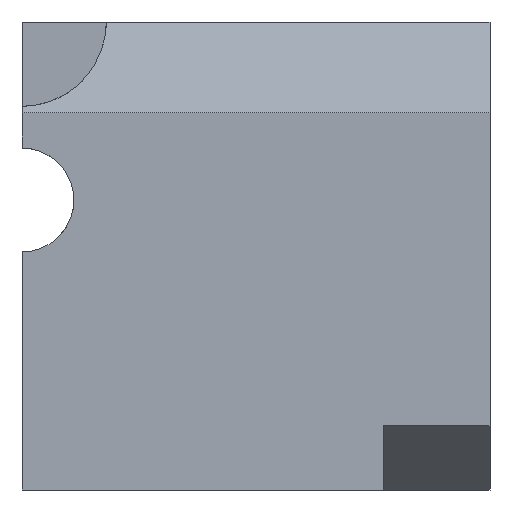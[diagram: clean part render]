
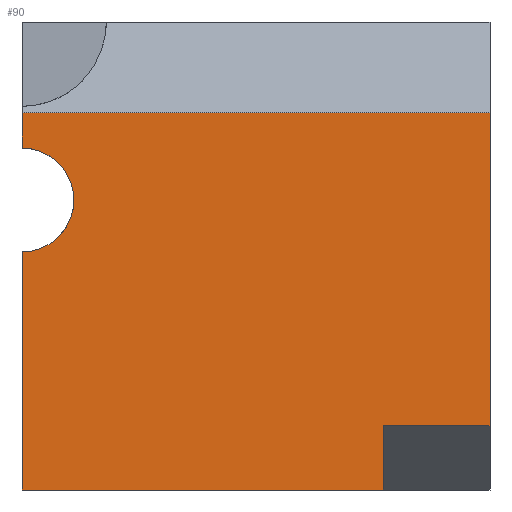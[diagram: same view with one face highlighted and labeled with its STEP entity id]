
A CAD part, front view. The second image highlights one B-rep face of the part: STEP entity #90.
In plain terms, the highlighted planar face has unit normal (0, -1, 0).
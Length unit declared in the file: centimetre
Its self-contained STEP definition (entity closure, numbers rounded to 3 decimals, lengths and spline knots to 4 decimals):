
#3 = VERTEX_POINT ( 'NONE', #311 ) ;
#11 = CIRCLE ( 'NONE', #288, 110.9121 ) ;
#25 = VERTEX_POINT ( 'NONE', #173 ) ;
#29 = CARTESIAN_POINT ( 'NONE',  ( 0., 0., 806.0865 ) ) ;
#30 = LINE ( 'NONE', #402, #954 ) ;
#39 = CARTESIAN_POINT ( 'NONE',  ( 0., 0., 1000. ) ) ;
#47 = VERTEX_POINT ( 'NONE', #29 ) ;
#63 = CARTESIAN_POINT ( 'NONE',  ( 772.1229, 0., 0. ) ) ;
#78 = CARTESIAN_POINT ( 'NONE',  ( 0., 0., 1000. ) ) ;
#90 = ADVANCED_FACE ( 'NONE', ( #357 ), #188, .F. ) ;
#94 = DIRECTION ( 'NONE',  ( 0., 0., -1. ) ) ;
#102 = LINE ( 'NONE', #308, #574 ) ;
#110 = DIRECTION ( 'NONE',  ( 1., 0., 0. ) ) ;
#121 = CARTESIAN_POINT ( 'NONE',  ( 0., 0., 806.0865 ) ) ;
#125 = VERTEX_POINT ( 'NONE', #63 ) ;
#138 = VERTEX_POINT ( 'NONE', #809 ) ;
#151 = LINE ( 'NONE', #447, #735 ) ;
#153 = EDGE_CURVE ( 'NONE', #138, #47, #269, .T. ) ;
#162 = EDGE_CURVE ( 'NONE', #272, #3, #11, .T. ) ;
#173 = CARTESIAN_POINT ( 'NONE',  ( 0., 0., 0. ) ) ;
#180 = ORIENTED_EDGE ( 'NONE', *, *, #604, .T. ) ;
#188 = PLANE ( 'NONE',  #365 ) ;
#195 = DIRECTION ( 'NONE',  ( 0., 0., 1. ) ) ;
#244 = CARTESIAN_POINT ( 'NONE',  ( 772.1229, 0., 137.5406 ) ) ;
#269 = LINE ( 'NONE', #121, #441 ) ;
#272 = VERTEX_POINT ( 'NONE', #351 ) ;
#279 = DIRECTION ( 'NONE',  ( 0., 1., 0. ) ) ;
#281 = CARTESIAN_POINT ( 'NONE',  ( 1000., 0., 137.5406 ) ) ;
#288 = AXIS2_PLACEMENT_3D ( 'NONE', #887, #664, #799 ) ;
#298 = CARTESIAN_POINT ( 'NONE',  ( 0., 0., 1000. ) ) ;
#299 = EDGE_LOOP ( 'NONE', ( #730, #801, #180, #695, #440, #349, #555, #364 ) ) ;
#306 = DIRECTION ( 'NONE',  ( 1., 0., 0. ) ) ;
#308 = CARTESIAN_POINT ( 'NONE',  ( 1000., 0., 1000. ) ) ;
#311 = CARTESIAN_POINT ( 'NONE',  ( 0., 0., 730.5217 ) ) ;
#328 = VECTOR ( 'NONE', #531, 100. ) ;
#349 = ORIENTED_EDGE ( 'NONE', *, *, #772, .T. ) ;
#351 = CARTESIAN_POINT ( 'NONE',  ( 0., 0., 508.6975 ) ) ;
#357 = FACE_OUTER_BOUND ( 'NONE', #299, .T. ) ;
#360 = EDGE_CURVE ( 'NONE', #47, #3, #754, .T. ) ;
#364 = ORIENTED_EDGE ( 'NONE', *, *, #153, .T. ) ;
#365 = AXIS2_PLACEMENT_3D ( 'NONE', #39, #279, #195 ) ;
#402 = CARTESIAN_POINT ( 'NONE',  ( 772.1229, 0., 137.5406 ) ) ;
#413 = DIRECTION ( 'NONE',  ( -1., 0., 0. ) ) ;
#440 = ORIENTED_EDGE ( 'NONE', *, *, #606, .F. ) ;
#441 = VECTOR ( 'NONE', #413, 100. ) ;
#447 = CARTESIAN_POINT ( 'NONE',  ( 0., 0., 0. ) ) ;
#470 = VECTOR ( 'NONE', #526, 100. ) ;
#520 = DIRECTION ( 'NONE',  ( 0., 0., -1. ) ) ;
#521 = VERTEX_POINT ( 'NONE', #281 ) ;
#526 = DIRECTION ( 'NONE',  ( 0., 0., -1. ) ) ;
#531 = DIRECTION ( 'NONE',  ( 0., 0., -1. ) ) ;
#555 = ORIENTED_EDGE ( 'NONE', *, *, #892, .F. ) ;
#574 = VECTOR ( 'NONE', #94, 100. ) ;
#604 = EDGE_CURVE ( 'NONE', #272, #25, #763, .T. ) ;
#606 = EDGE_CURVE ( 'NONE', #818, #125, #755, .T. ) ;
#664 = DIRECTION ( 'NONE',  ( 0., -1., 0. ) ) ;
#695 = ORIENTED_EDGE ( 'NONE', *, *, #759, .T. ) ;
#730 = ORIENTED_EDGE ( 'NONE', *, *, #360, .T. ) ;
#735 = VECTOR ( 'NONE', #306, 100. ) ;
#754 = LINE ( 'NONE', #78, #328 ) ;
#755 = LINE ( 'NONE', #914, #872 ) ;
#759 = EDGE_CURVE ( 'NONE', #25, #125, #151, .T. ) ;
#763 = LINE ( 'NONE', #298, #470 ) ;
#772 = EDGE_CURVE ( 'NONE', #818, #521, #30, .T. ) ;
#799 = DIRECTION ( 'NONE',  ( 0., 0., -1. ) ) ;
#801 = ORIENTED_EDGE ( 'NONE', *, *, #162, .F. ) ;
#809 = CARTESIAN_POINT ( 'NONE',  ( 1000., 0., 806.0865 ) ) ;
#818 = VERTEX_POINT ( 'NONE', #244 ) ;
#872 = VECTOR ( 'NONE', #520, 100. ) ;
#887 = CARTESIAN_POINT ( 'NONE',  ( 0., 0., 619.6096 ) ) ;
#892 = EDGE_CURVE ( 'NONE', #138, #521, #102, .T. ) ;
#914 = CARTESIAN_POINT ( 'NONE',  ( 772.1229, 0., 137.5406 ) ) ;
#954 = VECTOR ( 'NONE', #110, 100. ) ;
